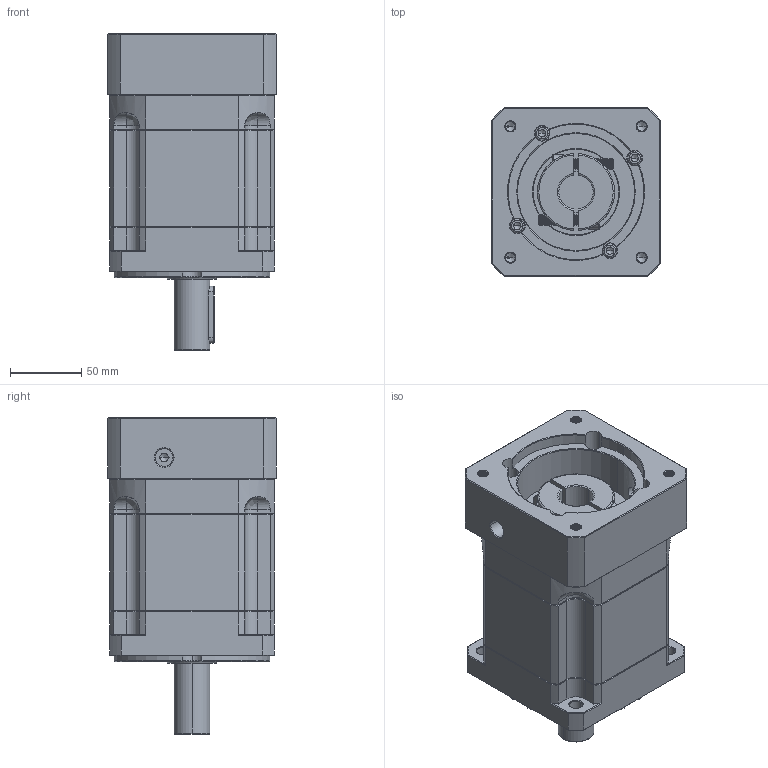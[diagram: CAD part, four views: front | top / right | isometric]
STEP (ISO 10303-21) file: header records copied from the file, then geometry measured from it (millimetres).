
FILE_DESCRIPTION (( 'STEP AP214' ), '1' );
FILE_NAME ('ZB115A-D25-L2-24-95-130-M8.step', '2023-03-02T08:57:55', ( '' ), ( 'Microsoft' ), 'SwSTEP 2.0', 'SolidWorks 2016', '' );
FILE_SCHEMA (( 'AUTOMOTIVE_DESIGN' ));
Length unit declared in the file: millimetre
Products named in the file (1): ZB115A-D25-L2-24-95-130-M8
Bounding box: 118 x 118 x 222 mm (x, y, z)
Volume: 1891048.2 mm3; surface area: 181227.4 mm2
Topology: 6 solids, 6 shells, 2123 faces, 5497 edges, 3465 vertices
Faces by surface type: plane 964, cylinder 444, cone 370, bspline 325, torus 20
Entity records: 113593 total; most frequent: CARTESIAN_POINT 41305, ORIENTED_EDGE 10926, DIRECTION 8970, EDGE_CURVE 5463, VERTEX_POINT 3465, LINE 3380, VECTOR 3380, AXIS2_PLACEMENT_3D 2795
